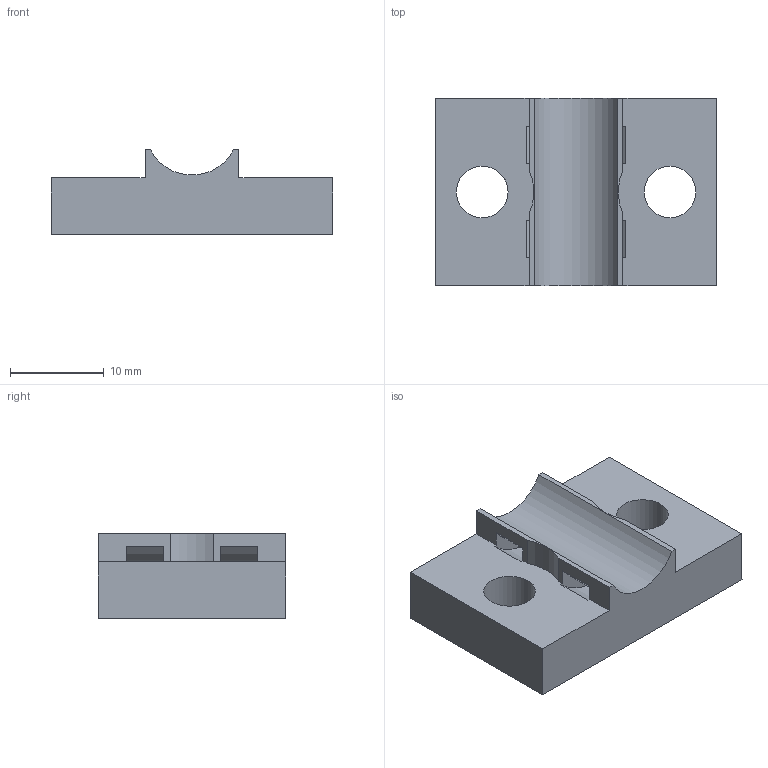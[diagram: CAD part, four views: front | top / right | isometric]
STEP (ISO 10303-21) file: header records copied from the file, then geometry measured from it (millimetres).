
FILE_DESCRIPTION(/* description */ (''),/* implementation_level */ '2;1');
FILE_NAME(/* name */ 'Gantry Cable Budle Frame Tie x1 v1.step',/* time_stamp */ '2023-03-23T06:39:24-06:00',/* author */ (''),/* organization */ (''),/* preprocessor_version */ 'ST-DEVELOPER v19.2',/* originating_system */ 'Autodesk Translation Framework v11.17.0.187',/* authorisation */ '');
FILE_SCHEMA (('AUTOMOTIVE_DESIGN { 1 0 10303 214 3 1 1 }'));
Length unit declared in the file: millimetre
Products named in the file (2): Gantry Cable Budle Frame Tie x1; Gantry Cable Budle Frame Tie x1_1
Assembly tree (1 placements, depth 2):
  Gantry Cable Budle Frame Tie x1
    Gantry Cable Budle Frame Tie x1_1
Bounding box: 30 x 20 x 9 mm (x, y, z)
Volume: 3447.2 mm3; surface area: 2314.9 mm2
Topology: 1 solids, 1 shells, 26 faces, 84 edges, 56 vertices
Faces by surface type: plane 17, cylinder 9
Full cylindrical faces by diameter (mm): 5.5 x2
Entity records: 1002 total; most frequent: CARTESIAN_POINT 169, ORIENTED_EDGE 168, DIRECTION 160, EDGE_CURVE 84, LINE 66, VECTOR 66, VERTEX_POINT 56, AXIS2_PLACEMENT_3D 47
